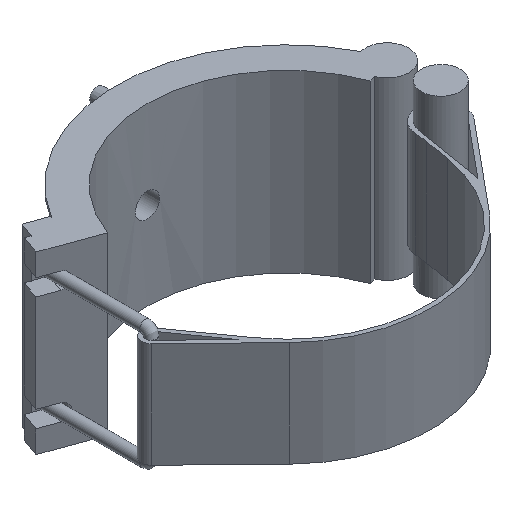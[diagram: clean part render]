
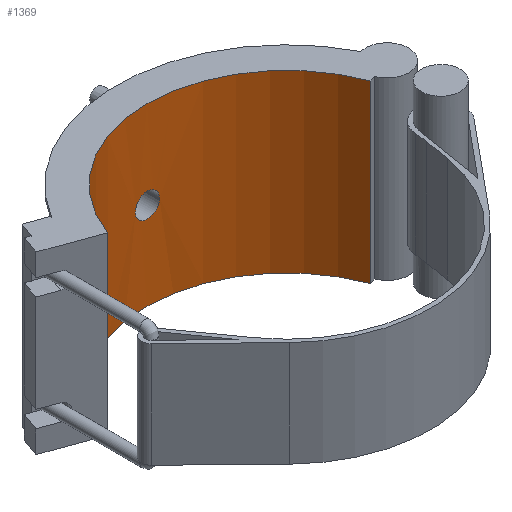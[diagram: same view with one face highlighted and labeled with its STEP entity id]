
A CAD part, isometric view. The second image highlights one B-rep face of the part: STEP entity #1369.
In plain terms, the highlighted cylindrical face has radius 140.3 mm (diameter 280.6 mm), a partial arc.
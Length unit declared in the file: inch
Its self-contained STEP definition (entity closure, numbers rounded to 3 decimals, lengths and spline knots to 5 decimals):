
#27=B_SPLINE_CURVE_WITH_KNOTS('',3,(#2424,#2425,#2426,#2427,#2428,#2429,
#2430,#2431,#2432,#2433,#2434,#2435,#2436,#2437,#2438,#2439,#2440,#2441,
#2442,#2443,#2444,#2445,#2446,#2447,#2448,#2449,#2450,#2451,#2452,#2453,
#2454,#2455,#2456,#2457),.UNSPECIFIED.,.T.,.F.,(4,2,2,2,2,2,2,2,2,2,2,2,
2,2,2,2,4),(0.,0.45665,0.91331,1.36996,1.82661,
2.28326,2.73992,3.19657,3.65322,4.10988,
4.56653,5.02318,5.47983,5.93649,6.39314,
6.84979,7.30644),.UNSPECIFIED.);
#52=CYLINDRICAL_SURFACE('',#1517,5.52362);
#75=FACE_BOUND('',#295,.T.);
#119=CIRCLE('',#1483,5.52362);
#130=CIRCLE('',#1515,5.52362);
#205=FACE_OUTER_BOUND('',#294,.T.);
#294=EDGE_LOOP('',(#1181,#1182,#1183,#1184));
#295=EDGE_LOOP('',(#1185));
#374=LINE('',#2141,#488);
#426=LINE('',#2421,#540);
#488=VECTOR('',#1714,0.3937);
#540=VECTOR('',#1868,0.3937);
#619=VERTEX_POINT('',#2138);
#620=VERTEX_POINT('',#2140);
#641=VERTEX_POINT('',#2210);
#657=VERTEX_POINT('',#2417);
#658=VERTEX_POINT('',#2423);
#764=EDGE_CURVE('',#620,#619,#374,.T.);
#800=EDGE_CURVE('',#620,#641,#119,.T.);
#837=EDGE_CURVE('',#657,#619,#130,.T.);
#838=EDGE_CURVE('',#657,#641,#426,.T.);
#839=EDGE_CURVE('',#658,#658,#27,.T.);
#1181=ORIENTED_EDGE('',*,*,#838,.T.);
#1182=ORIENTED_EDGE('',*,*,#800,.F.);
#1183=ORIENTED_EDGE('',*,*,#764,.T.);
#1184=ORIENTED_EDGE('',*,*,#837,.F.);
#1185=ORIENTED_EDGE('',*,*,#839,.T.);
#1369=ADVANCED_FACE('',(#205,#75),#52,.F.);
#1483=AXIS2_PLACEMENT_3D('',#2211,#1780,#1781);
#1515=AXIS2_PLACEMENT_3D('',#2419,#1864,#1865);
#1517=AXIS2_PLACEMENT_3D('',#2422,#1869,#1870);
#1714=DIRECTION('',(0.,0.,-1.));
#1780=DIRECTION('center_axis',(0.,0.,-1.));
#1781=DIRECTION('ref_axis',(-1.,0.,0.));
#1864=DIRECTION('center_axis',(0.,0.,1.));
#1865=DIRECTION('ref_axis',(-1.,0.,0.));
#1868=DIRECTION('',(0.,0.,1.));
#1869=DIRECTION('center_axis',(0.,0.,1.));
#1870=DIRECTION('ref_axis',(-1.,0.,0.));
#2138=CARTESIAN_POINT('',(-5.19051,1.88919,-3.465));
#2140=CARTESIAN_POINT('',(-5.19051,1.88919,3.465));
#2141=CARTESIAN_POINT('',(-5.19051,1.88919,0.));
#2210=CARTESIAN_POINT('',(5.19051,1.88919,3.465));
#2211=CARTESIAN_POINT('Origin',(0.,0.,3.465));
#2417=CARTESIAN_POINT('',(5.19051,1.88919,-3.465));
#2419=CARTESIAN_POINT('Origin',(0.,0.,-3.465));
#2421=CARTESIAN_POINT('',(5.19051,1.88919,0.));
#2422=CARTESIAN_POINT('Origin',(0.,0.,0.));
#2423=CARTESIAN_POINT('',(0.47702,5.50299,0.));
#2424=CARTESIAN_POINT('Ctrl Pts',(0.47702,5.50299,0.));
#2425=CARTESIAN_POINT('Ctrl Pts',(0.47702,5.50299,-0.05993));
#2426=CARTESIAN_POINT('Ctrl Pts',(0.46504,5.50407,-0.12383));
#2427=CARTESIAN_POINT('Ctrl Pts',(0.41635,5.50796,-0.24135));
#2428=CARTESIAN_POINT('Ctrl Pts',(0.37964,5.51072,-0.29497));
#2429=CARTESIAN_POINT('Ctrl Pts',(0.29497,5.5159,-0.37964));
#2430=CARTESIAN_POINT('Ctrl Pts',(0.24135,5.51866,-0.41635));
#2431=CARTESIAN_POINT('Ctrl Pts',(0.12383,5.52255,-0.46504));
#2432=CARTESIAN_POINT('Ctrl Pts',(0.05993,5.52362,-0.47702));
#2433=CARTESIAN_POINT('Ctrl Pts',(-0.05993,5.52362,
-0.47702));
#2434=CARTESIAN_POINT('Ctrl Pts',(-0.12383,5.52255,-0.46504));
#2435=CARTESIAN_POINT('Ctrl Pts',(-0.24135,5.51866,-0.41635));
#2436=CARTESIAN_POINT('Ctrl Pts',(-0.29497,5.5159,-0.37964));
#2437=CARTESIAN_POINT('Ctrl Pts',(-0.37964,5.51072,-0.29497));
#2438=CARTESIAN_POINT('Ctrl Pts',(-0.41635,5.50796,-0.24135));
#2439=CARTESIAN_POINT('Ctrl Pts',(-0.46504,5.50407,-0.12383));
#2440=CARTESIAN_POINT('Ctrl Pts',(-0.47702,5.50299,-0.05993));
#2441=CARTESIAN_POINT('Ctrl Pts',(-0.47702,5.50299,0.05993));
#2442=CARTESIAN_POINT('Ctrl Pts',(-0.46504,5.50407,0.12383));
#2443=CARTESIAN_POINT('Ctrl Pts',(-0.41635,5.50796,0.24135));
#2444=CARTESIAN_POINT('Ctrl Pts',(-0.37964,5.51072,0.29497));
#2445=CARTESIAN_POINT('Ctrl Pts',(-0.29497,5.5159,0.37964));
#2446=CARTESIAN_POINT('Ctrl Pts',(-0.24135,5.51866,0.41635));
#2447=CARTESIAN_POINT('Ctrl Pts',(-0.12383,5.52255,0.46504));
#2448=CARTESIAN_POINT('Ctrl Pts',(-0.05993,5.52362,
0.47702));
#2449=CARTESIAN_POINT('Ctrl Pts',(0.05993,5.52362,0.47702));
#2450=CARTESIAN_POINT('Ctrl Pts',(0.12383,5.52255,0.46504));
#2451=CARTESIAN_POINT('Ctrl Pts',(0.24135,5.51866,0.41635));
#2452=CARTESIAN_POINT('Ctrl Pts',(0.29497,5.5159,0.37964));
#2453=CARTESIAN_POINT('Ctrl Pts',(0.37964,5.51072,0.29497));
#2454=CARTESIAN_POINT('Ctrl Pts',(0.41635,5.50796,0.24135));
#2455=CARTESIAN_POINT('Ctrl Pts',(0.46504,5.50407,0.12383));
#2456=CARTESIAN_POINT('Ctrl Pts',(0.47702,5.50299,0.05993));
#2457=CARTESIAN_POINT('Ctrl Pts',(0.47702,5.50299,0.));
